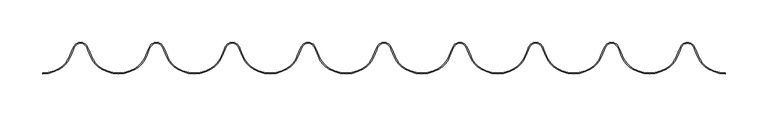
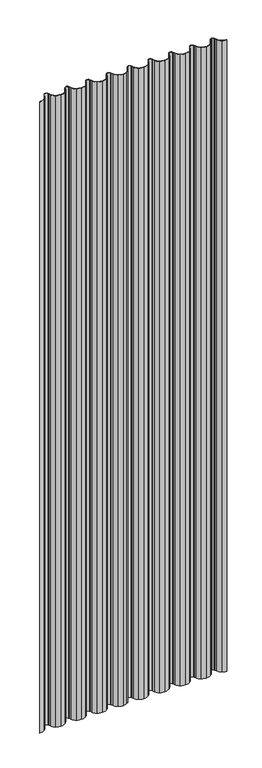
"""IFC4 building model written with IfcOpenShell, lengths in millimetres: plate geometry, Regolare Vertical 801 : Regolare Vertical 801."""

from ifc_helpers import new_model, si_unit, point, frame_2d, origin, origin_with_axes, place, context, project, spatial, polyline, circle_curve, trimmed, segment, composite_curve, outline, extrude, source, transform, mapped, element, save


def plate_73b56dba(model_context):
    return source(origin(), model_context, "Body", "SweptSolid", [
        extrude(outline(composite_curve([segment(trimmed(circle_curve(frame_2d((400.7317009, 38.4503244)), 37.4503244), [point((381.1909507, 6.5021495))], [point((400.7317009, 1.0))], True, "CARTESIAN"), True, "CONTINUOUS"), segment(polyline([(400.7317009, 1.0), (400.7317009, 0.0)]), True, "CONTINUOUS"), segment(trimmed(circle_curve(frame_2d((400.7317009, 38.4503244)), 38.4503244), [point((400.7317009, 0.0))], [point((380.6691729, 5.6490681))], False, "CARTESIAN"), True, "CONTINUOUS"), segment(trimmed(circle_curve(frame_2d((397.1660556, 32.6206681)), 31.6166783), [point((380.6691729, 5.6490681))], [point((367.8105714, 20.878867))], False, "CARTESIAN"), True, "CONTINUOUS"), segment(polyline([(367.8105714, 20.878867), (364.9413497, 28.0423924), (363.294996, 31.4771017)]), True, "CONTINUOUS"), segment(trimmed(circle_curve(frame_2d((356.2059563, 28.0791236)), 7.8613445), [point((363.294996, 31.4771017))], [point((356.2059563, 35.9404682))], True, "CARTESIAN"), True, "CONTINUOUS"), segment(trimmed(circle_curve(frame_2d((356.2059563, 28.0791236)), 7.8613445), [point((356.2059563, 35.9404682))], [point((349.1169167, 31.4771017))], True, "CARTESIAN"), True, "CONTINUOUS"), segment(polyline([(349.1169167, 31.4771017), (347.470563, 28.0423924), (344.6013413, 20.8788671)]), True, "CONTINUOUS"), segment(trimmed(circle_curve(frame_2d((315.245857, 32.6206681)), 31.6166783), [point((344.6013413, 20.8788671))], [point((331.7427398, 5.6490681))], False, "CARTESIAN"), True, "CONTINUOUS"), segment(trimmed(circle_curve(frame_2d((311.6802118, 38.4503244)), 38.4503244), [point((331.7427398, 5.6490681))], [point((311.6802118, 0.0))], False, "CARTESIAN"), True, "CONTINUOUS"), segment(trimmed(circle_curve(frame_2d((311.6802118, 38.4503244)), 38.4503244), [point((311.6802118, 0.0))], [point((291.6176838, 5.6490681))], False, "CARTESIAN"), True, "CONTINUOUS"), segment(trimmed(circle_curve(frame_2d((308.1145665, 32.6206681)), 31.6166783), [point((291.6176838, 5.6490681))], [point((278.7590823, 20.8788669))], False, "CARTESIAN"), True, "CONTINUOUS"), segment(polyline([(278.7590823, 20.8788669), (275.8898606, 28.0423924), (274.2435069, 31.4771017)]), True, "CONTINUOUS"), segment(trimmed(circle_curve(frame_2d((267.1544672, 28.0791236)), 7.8613445), [point((274.2435069, 31.4771017))], [point((260.0654276, 31.4771017))], True, "CARTESIAN"), True, "CONTINUOUS"), segment(polyline([(260.0654276, 31.4771017), (258.4190739, 28.0423924), (255.5498522, 20.878867)]), True, "CONTINUOUS"), segment(trimmed(circle_curve(frame_2d((226.1943679, 32.6206681)), 31.6166783), [point((255.5498522, 20.878867))], [point((242.6912507, 5.6490681))], False, "CARTESIAN"), True, "CONTINUOUS"), segment(trimmed(circle_curve(frame_2d((222.6287227, 38.4503244)), 38.4503244), [point((242.6912507, 5.6490681))], [point((222.6287227, 0.0))], False, "CARTESIAN"), True, "CONTINUOUS"), segment(trimmed(circle_curve(frame_2d((222.6287227, 38.4503244)), 38.4503244), [point((222.6287227, 0.0))], [point((202.5661947, 5.6490681))], False, "CARTESIAN"), True, "CONTINUOUS"), segment(trimmed(circle_curve(frame_2d((219.0630775, 32.6206681)), 31.6166783), [point((202.5661947, 5.6490681))], [point((189.7075932, 20.878867))], False, "CARTESIAN"), True, "CONTINUOUS"), segment(polyline([(189.7075932, 20.878867), (186.8383715, 28.0423924), (185.1920178, 31.4771017)]), True, "CONTINUOUS"), segment(trimmed(circle_curve(frame_2d((178.1029782, 28.0791236)), 7.8613445), [point((185.1920178, 31.4771017))], [point((171.0139385, 31.4771017))], True, "CARTESIAN"), True, "CONTINUOUS"), segment(polyline([(171.0139385, 31.4771017), (169.3675848, 28.0423924), (166.4983631, 20.8788669)]), True, "CONTINUOUS"), segment(trimmed(circle_curve(frame_2d((137.1428789, 32.6206681)), 31.6166783), [point((166.4983631, 20.8788669))], [point((153.6397616, 5.6490681))], False, "CARTESIAN"), True, "CONTINUOUS"), segment(trimmed(circle_curve(frame_2d((133.5772336, 38.4503244)), 38.4503244), [point((153.6397616, 5.6490681))], [point((133.5772336, 0.0))], False, "CARTESIAN"), True, "CONTINUOUS"), segment(trimmed(circle_curve(frame_2d((133.5772336, 38.4503244)), 38.4503244), [point((133.5772336, 0.0))], [point((113.5147056, 5.6490681))], False, "CARTESIAN"), True, "CONTINUOUS"), segment(trimmed(circle_curve(frame_2d((130.0115884, 32.6206681)), 31.6166783), [point((113.5147056, 5.6490681))], [point((100.6561042, 20.8788669))], False, "CARTESIAN"), True, "CONTINUOUS"), segment(polyline([(100.6561042, 20.8788669), (97.7868824, 28.0423924), (96.1405287, 31.4771017)]), True, "CONTINUOUS"), segment(trimmed(circle_curve(frame_2d((89.0514891, 28.0791236)), 7.8613445), [point((96.1405287, 31.4771017))], [point((81.9624494, 31.4771017))], True, "CARTESIAN"), True, "CONTINUOUS"), segment(polyline([(81.9624494, 31.4771017), (80.3160957, 28.0423924), (77.4468741, 20.8788673)]), True, "CONTINUOUS"), segment(trimmed(circle_curve(frame_2d((48.0913898, 32.6206681)), 31.6166783), [point((77.4468741, 20.8788673))], [point((64.5882725, 5.6490681))], False, "CARTESIAN"), True, "CONTINUOUS"), segment(trimmed(circle_curve(frame_2d((44.5257445, 38.4503244)), 38.4503244), [point((64.5882725, 5.6490681))], [point((44.5257445, 0.0))], False, "CARTESIAN"), True, "CONTINUOUS"), segment(trimmed(circle_curve(frame_2d((44.5257445, 38.4503244)), 38.4503244), [point((44.5257445, 0.0))], [point((24.4632165, 5.6490681))], False, "CARTESIAN"), True, "CONTINUOUS"), segment(trimmed(circle_curve(frame_2d((40.9600993, 32.6206681)), 31.6166783), [point((24.4632165, 5.6490681))], [point((11.6046151, 20.878867))], False, "CARTESIAN"), True, "CONTINUOUS"), segment(polyline([(11.6046151, 20.878867), (8.7353934, 28.0423924), (7.0890396, 31.4771017)]), True, "CONTINUOUS"), segment(trimmed(circle_curve(frame_2d((0.0, 28.0791236)), 7.8613445), [point((7.0890396, 31.4771017))], [point((-7.0890396, 31.4771017))], True, "CARTESIAN"), True, "CONTINUOUS"), segment(polyline([(-7.0890396, 31.4771017), (-8.7353934, 28.0423924), (-11.6046151, 20.878867)]), True, "CONTINUOUS"), segment(trimmed(circle_curve(frame_2d((-40.9600993, 32.6206681)), 31.6166783), [point((-11.6046151, 20.878867))], [point((-24.4632165, 5.6490681))], False, "CARTESIAN"), True, "CONTINUOUS"), segment(trimmed(circle_curve(frame_2d((-44.5257445, 38.4503244)), 38.4503244), [point((-24.4632165, 5.6490681))], [point((-44.5257445, 0.0))], False, "CARTESIAN"), True, "CONTINUOUS"), segment(trimmed(circle_curve(frame_2d((-44.5257445, 38.4503244)), 38.4503244), [point((-44.5257445, 0.0))], [point((-64.5882725, 5.6490681))], False, "CARTESIAN"), True, "CONTINUOUS"), segment(trimmed(circle_curve(frame_2d((-48.0913898, 32.6206681)), 31.6166783), [point((-64.5882725, 5.6490681))], [point((-77.4468741, 20.8788671))], False, "CARTESIAN"), True, "CONTINUOUS"), segment(polyline([(-77.4468741, 20.8788671), (-80.3160957, 28.0423924), (-81.9624494, 31.4771017)]), True, "CONTINUOUS"), segment(trimmed(circle_curve(frame_2d((-89.0514891, 28.0791236)), 7.8613445), [point((-81.9624494, 31.4771017))], [point((-96.1405287, 31.4771017))], True, "CARTESIAN"), True, "CONTINUOUS"), segment(polyline([(-96.1405287, 31.4771017), (-97.7868824, 28.0423924), (-100.6561041, 20.878867)]), True, "CONTINUOUS"), segment(trimmed(circle_curve(frame_2d((-130.0115884, 32.6206681)), 31.6166783), [point((-100.6561041, 20.878867))], [point((-113.5147056, 5.6490681))], False, "CARTESIAN"), True, "CONTINUOUS"), segment(trimmed(circle_curve(frame_2d((-133.5772336, 38.4503244)), 38.4503244), [point((-113.5147056, 5.6490681))], [point((-133.5772336, 0.0))], False, "CARTESIAN"), True, "CONTINUOUS"), segment(trimmed(circle_curve(frame_2d((-133.5772336, 38.4503244)), 38.4503244), [point((-133.5772336, 0.0))], [point((-153.6397616, 5.6490681))], False, "CARTESIAN"), True, "CONTINUOUS"), segment(trimmed(circle_curve(frame_2d((-137.1428789, 32.6206681)), 31.6166783), [point((-153.6397616, 5.6490681))], [point((-166.4983631, 20.878867))], False, "CARTESIAN"), True, "CONTINUOUS"), segment(polyline([(-166.4983631, 20.878867), (-169.3675848, 28.0423924), (-171.0139385, 31.4771017)]), True, "CONTINUOUS"), segment(trimmed(circle_curve(frame_2d((-178.1029782, 28.0791236)), 7.8613445), [point((-171.0139385, 31.4771017))], [point((-185.1920178, 31.4771017))], True, "CARTESIAN"), True, "CONTINUOUS"), segment(polyline([(-185.1920178, 31.4771017), (-186.8383715, 28.0423924), (-189.7075932, 20.878867)]), True, "CONTINUOUS"), segment(trimmed(circle_curve(frame_2d((-219.0630775, 32.6206681)), 31.6166783), [point((-189.7075932, 20.878867))], [point((-202.5661947, 5.6490681))], False, "CARTESIAN"), True, "CONTINUOUS"), segment(trimmed(circle_curve(frame_2d((-222.6287227, 38.4503244)), 38.4503244), [point((-202.5661947, 5.6490681))], [point((-222.6287227, 0.0))], False, "CARTESIAN"), True, "CONTINUOUS"), segment(trimmed(circle_curve(frame_2d((-222.6287227, 38.4503244)), 38.4503244), [point((-222.6287227, 0.0))], [point((-242.6912507, 5.6490681))], False, "CARTESIAN"), True, "CONTINUOUS"), segment(trimmed(circle_curve(frame_2d((-226.1943679, 32.6206681)), 31.6166783), [point((-242.6912507, 5.6490681))], [point((-255.5498521, 20.8788668))], False, "CARTESIAN"), True, "CONTINUOUS"), segment(polyline([(-255.5498521, 20.8788668), (-258.4190739, 28.0423924), (-260.0654276, 31.4771017)]), True, "CONTINUOUS"), segment(trimmed(circle_curve(frame_2d((-267.1544672, 28.0791236)), 7.8613445), [point((-260.0654276, 31.4771017))], [point((-274.2435069, 31.4771017))], True, "CARTESIAN"), True, "CONTINUOUS"), segment(polyline([(-274.2435069, 31.4771017), (-275.8898606, 28.0423924), (-278.7590823, 20.878867)]), True, "CONTINUOUS"), segment(trimmed(circle_curve(frame_2d((-308.1145665, 32.6206681)), 31.6166783), [point((-278.7590823, 20.878867))], [point((-291.6176838, 5.6490681))], False, "CARTESIAN"), True, "CONTINUOUS"), segment(trimmed(circle_curve(frame_2d((-311.6802118, 38.4503244)), 38.4503244), [point((-291.6176838, 5.6490681))], [point((-311.6802118, 0.0))], False, "CARTESIAN"), True, "CONTINUOUS"), segment(trimmed(circle_curve(frame_2d((-311.6802118, 38.4503244)), 38.4503244), [point((-311.6802118, 0.0))], [point((-331.7427398, 5.6490681))], False, "CARTESIAN"), True, "CONTINUOUS"), segment(trimmed(circle_curve(frame_2d((-315.245857, 32.6206681)), 31.6166783), [point((-331.7427398, 5.6490681))], [point((-344.6013413, 20.878867))], False, "CARTESIAN"), True, "CONTINUOUS"), segment(polyline([(-344.6013413, 20.878867), (-347.470563, 28.0423924), (-349.1169167, 31.4771017)]), True, "CONTINUOUS"), segment(trimmed(circle_curve(frame_2d((-356.2059563, 28.0791236)), 7.8613445), [point((-349.1169167, 31.4771017))], [point((-363.294996, 31.4771017))], True, "CARTESIAN"), True, "CONTINUOUS"), segment(polyline([(-363.294996, 31.4771017), (-364.9413497, 28.0423924), (-367.8105713, 20.8788671)]), True, "CONTINUOUS"), segment(trimmed(circle_curve(frame_2d((-397.1660556, 32.6206681)), 31.6166783), [point((-367.8105713, 20.8788671))], [point((-380.6691729, 5.6490681))], False, "CARTESIAN"), True, "CONTINUOUS"), segment(trimmed(circle_curve(frame_2d((-400.7317009, 38.4503244)), 38.4503244), [point((-380.6691729, 5.6490681))], [point((-400.7317009, 0.0))], False, "CARTESIAN"), True, "CONTINUOUS"), segment(polyline([(-400.7317009, 0.0), (-400.7317009, 1.0)]), True, "CONTINUOUS"), segment(trimmed(circle_curve(frame_2d((-400.7317009, 38.4503244)), 37.4503244), [point((-400.7317009, 1.0))], [point((-381.1909507, 6.5021495))], True, "CARTESIAN"), True, "CONTINUOUS"), segment(trimmed(circle_curve(frame_2d((-397.1660556, 32.6206681)), 30.6166783), [point((-381.1909507, 6.5021495))], [point((-368.7389658, 21.2504634))], True, "CARTESIAN"), True, "CONTINUOUS"), segment(polyline([(-368.7389658, 21.2504634), (-365.8573799, 28.4448583), (-364.1967551, 31.9093405)]), True, "CONTINUOUS"), segment(trimmed(circle_curve(frame_2d((-356.2059563, 28.0791236)), 8.8613445), [point((-364.1967551, 31.9093405))], [point((-348.2151575, 31.9093405))], False, "CARTESIAN"), True, "CONTINUOUS"), segment(polyline([(-348.2151575, 31.9093405), (-346.5545328, 28.4448583), (-343.6729469, 21.2504635)]), True, "CONTINUOUS"), segment(trimmed(circle_curve(frame_2d((-315.245857, 32.6206681)), 30.6166783), [point((-343.6729469, 21.2504635))], [point((-331.2209619, 6.5021495))], True, "CARTESIAN"), True, "CONTINUOUS"), segment(trimmed(circle_curve(frame_2d((-311.6802118, 38.4503244)), 37.4503244), [point((-331.2209619, 6.5021495))], [point((-311.6802118, 1.0))], True, "CARTESIAN"), True, "CONTINUOUS"), segment(trimmed(circle_curve(frame_2d((-311.6802118, 38.4503244)), 37.4503244), [point((-311.6802118, 1.0))], [point((-292.1394616, 6.5021495))], True, "CARTESIAN"), True, "CONTINUOUS"), segment(trimmed(circle_curve(frame_2d((-308.1145665, 32.6206681)), 30.6166783), [point((-292.1394616, 6.5021495))], [point((-279.6874767, 21.2504635))], True, "CARTESIAN"), True, "CONTINUOUS"), segment(polyline([(-279.6874767, 21.2504635), (-276.8058908, 28.4448583), (-275.1452661, 31.9093405)]), True, "CONTINUOUS"), segment(trimmed(circle_curve(frame_2d((-267.1544672, 28.0791236)), 8.8613445), [point((-275.1452661, 31.9093405))], [point((-259.1636684, 31.9093405))], False, "CARTESIAN"), True, "CONTINUOUS"), segment(polyline([(-259.1636684, 31.9093405), (-257.5030437, 28.4448583), (-254.6214578, 21.2504635)]), True, "CONTINUOUS"), segment(trimmed(circle_curve(frame_2d((-226.1943679, 32.6206681)), 30.6166783), [point((-254.6214578, 21.2504635))], [point((-242.1694728, 6.5021495))], True, "CARTESIAN"), True, "CONTINUOUS"), segment(trimmed(circle_curve(frame_2d((-222.6287227, 38.4503244)), 37.4503244), [point((-242.1694728, 6.5021495))], [point((-222.6287227, 1.0))], True, "CARTESIAN"), True, "CONTINUOUS"), segment(trimmed(circle_curve(frame_2d((-222.6287227, 38.4503244)), 37.4503244), [point((-222.6287227, 1.0))], [point((-203.0879726, 6.5021495))], True, "CARTESIAN"), True, "CONTINUOUS"), segment(trimmed(circle_curve(frame_2d((-219.0630775, 32.6206681)), 30.6166783), [point((-203.0879726, 6.5021495))], [point((-190.6359876, 21.2504635))], True, "CARTESIAN"), True, "CONTINUOUS"), segment(polyline([(-190.6359876, 21.2504635), (-187.7544017, 28.4448583), (-186.093777, 31.9093405)]), True, "CONTINUOUS"), segment(trimmed(circle_curve(frame_2d((-178.1029782, 28.0791236)), 8.8613445), [point((-186.093777, 31.9093405))], [point((-170.1121793, 31.9093405))], False, "CARTESIAN"), True, "CONTINUOUS"), segment(polyline([(-170.1121793, 31.9093405), (-168.4515546, 28.4448583), (-165.5699687, 21.2504634)]), True, "CONTINUOUS"), segment(trimmed(circle_curve(frame_2d((-137.1428789, 32.6206681)), 30.6166783), [point((-165.5699687, 21.2504634))], [point((-153.1179838, 6.5021495))], True, "CARTESIAN"), True, "CONTINUOUS"), segment(trimmed(circle_curve(frame_2d((-133.5772336, 38.4503244)), 37.4503244), [point((-153.1179838, 6.5021495))], [point((-133.5772336, 1.0))], True, "CARTESIAN"), True, "CONTINUOUS"), segment(trimmed(circle_curve(frame_2d((-133.5772336, 38.4503244)), 37.4503244), [point((-133.5772336, 1.0))], [point((-114.0364835, 6.5021495))], True, "CARTESIAN"), True, "CONTINUOUS"), segment(trimmed(circle_curve(frame_2d((-130.0115884, 32.6206681)), 30.6166783), [point((-114.0364835, 6.5021495))], [point((-101.5844985, 21.2504634))], True, "CARTESIAN"), True, "CONTINUOUS"), segment(polyline([(-101.5844985, 21.2504634), (-98.7029126, 28.4448583), (-97.0422879, 31.9093405)]), True, "CONTINUOUS"), segment(trimmed(circle_curve(frame_2d((-89.0514891, 28.0791236)), 8.8613445), [point((-97.0422879, 31.9093405))], [point((-81.0606903, 31.9093405))], False, "CARTESIAN"), True, "CONTINUOUS"), segment(polyline([(-81.0606903, 31.9093405), (-79.4000655, 28.4448583), (-76.5184796, 21.2504634)]), True, "CONTINUOUS"), segment(trimmed(circle_curve(frame_2d((-48.0913898, 32.6206681)), 30.6166783), [point((-76.5184796, 21.2504634))], [point((-64.0664947, 6.5021495))], True, "CARTESIAN"), True, "CONTINUOUS"), segment(trimmed(circle_curve(frame_2d((-44.5257445, 38.4503244)), 37.4503244), [point((-64.0664947, 6.5021495))], [point((-44.5257445, 1.0))], True, "CARTESIAN"), True, "CONTINUOUS"), segment(trimmed(circle_curve(frame_2d((-44.5257445, 38.4503244)), 37.4503244), [point((-44.5257445, 1.0))], [point((-24.9849944, 6.5021495))], True, "CARTESIAN"), True, "CONTINUOUS"), segment(trimmed(circle_curve(frame_2d((-40.9600993, 32.6206681)), 30.6166783), [point((-24.9849944, 6.5021495))], [point((-12.5330095, 21.2504633))], True, "CARTESIAN"), True, "CONTINUOUS"), segment(polyline([(-12.5330095, 21.2504633), (-9.6514235, 28.4448583), (-7.9907988, 31.9093405)]), True, "CONTINUOUS"), segment(trimmed(circle_curve(frame_2d((0.0, 28.0791236)), 8.8613445), [point((-7.9907988, 31.9093405))], [point((7.9907988, 31.9093405))], False, "CARTESIAN"), True, "CONTINUOUS"), segment(polyline([(7.9907988, 31.9093405), (9.6514235, 28.4448583), (12.5330095, 21.2504634)]), True, "CONTINUOUS"), segment(trimmed(circle_curve(frame_2d((40.9600993, 32.6206681)), 30.6166783), [point((12.5330095, 21.2504634))], [point((24.9849944, 6.5021495))], True, "CARTESIAN"), True, "CONTINUOUS"), segment(trimmed(circle_curve(frame_2d((44.5257445, 38.4503244)), 37.4503244), [point((24.9849944, 6.5021495))], [point((44.5257445, 1.0))], True, "CARTESIAN"), True, "CONTINUOUS"), segment(trimmed(circle_curve(frame_2d((44.5257445, 38.4503244)), 37.4503244), [point((44.5257445, 1.0))], [point((64.0664947, 6.5021495))], True, "CARTESIAN"), True, "CONTINUOUS"), segment(trimmed(circle_curve(frame_2d((48.0913898, 32.6206681)), 30.6166783), [point((64.0664947, 6.5021495))], [point((76.5184796, 21.2504634))], True, "CARTESIAN"), True, "CONTINUOUS"), segment(polyline([(76.5184796, 21.2504634), (79.4000655, 28.4448583), (81.0606903, 31.9093405)]), True, "CONTINUOUS"), segment(trimmed(circle_curve(frame_2d((89.0514891, 28.0791236)), 8.8613445), [point((81.0606903, 31.9093405))], [point((97.0422879, 31.9093405))], False, "CARTESIAN"), True, "CONTINUOUS"), segment(polyline([(97.0422879, 31.9093405), (98.7029126, 28.4448583), (101.5844985, 21.2504634)]), True, "CONTINUOUS"), segment(trimmed(circle_curve(frame_2d((130.0115884, 32.6206681)), 30.6166783), [point((101.5844985, 21.2504634))], [point((114.0364835, 6.5021495))], True, "CARTESIAN"), True, "CONTINUOUS"), segment(trimmed(circle_curve(frame_2d((133.5772336, 38.4503244)), 37.4503244), [point((114.0364835, 6.5021495))], [point((133.5772336, 1.0))], True, "CARTESIAN"), True, "CONTINUOUS"), segment(trimmed(circle_curve(frame_2d((133.5772336, 38.4503244)), 37.4503244), [point((133.5772336, 1.0))], [point((153.1179838, 6.5021495))], True, "CARTESIAN"), True, "CONTINUOUS"), segment(trimmed(circle_curve(frame_2d((137.1428789, 32.6206681)), 30.6166783), [point((153.1179838, 6.5021495))], [point((165.5699687, 21.2504634))], True, "CARTESIAN"), True, "CONTINUOUS"), segment(polyline([(165.5699687, 21.2504634), (168.4515546, 28.4448583), (170.1121793, 31.9093405)]), True, "CONTINUOUS"), segment(trimmed(circle_curve(frame_2d((178.1029782, 28.0791236)), 8.8613445), [point((170.1121793, 31.9093405))], [point((186.093777, 31.9093405))], False, "CARTESIAN"), True, "CONTINUOUS"), segment(polyline([(186.093777, 31.9093405), (187.7544017, 28.4448583), (190.6359876, 21.2504634)]), True, "CONTINUOUS"), segment(trimmed(circle_curve(frame_2d((219.0630775, 32.6206681)), 30.6166783), [point((190.6359876, 21.2504634))], [point((203.0879726, 6.5021495))], True, "CARTESIAN"), True, "CONTINUOUS"), segment(trimmed(circle_curve(frame_2d((222.6287227, 38.4503244)), 37.4503244), [point((203.0879726, 6.5021495))], [point((222.6287227, 1.0))], True, "CARTESIAN"), True, "CONTINUOUS"), segment(trimmed(circle_curve(frame_2d((222.6287227, 38.4503244)), 37.4503244), [point((222.6287227, 1.0))], [point((242.1694728, 6.5021495))], True, "CARTESIAN"), True, "CONTINUOUS"), segment(trimmed(circle_curve(frame_2d((226.1943679, 32.6206681)), 30.6166783), [point((242.1694728, 6.5021495))], [point((254.6214578, 21.2504634))], True, "CARTESIAN"), True, "CONTINUOUS"), segment(polyline([(254.6214578, 21.2504634), (257.5030437, 28.4448583), (259.1636684, 31.9093405)]), True, "CONTINUOUS"), segment(trimmed(circle_curve(frame_2d((267.1544672, 28.0791236)), 8.8613445), [point((259.1636684, 31.9093405))], [point((275.1452661, 31.9093405))], False, "CARTESIAN"), True, "CONTINUOUS"), segment(polyline([(275.1452661, 31.9093405), (276.8058908, 28.4448583), (279.6874767, 21.2504634)]), True, "CONTINUOUS"), segment(trimmed(circle_curve(frame_2d((308.1145665, 32.6206681)), 30.6166783), [point((279.6874767, 21.2504634))], [point((292.1394616, 6.5021495))], True, "CARTESIAN"), True, "CONTINUOUS"), segment(trimmed(circle_curve(frame_2d((311.6802118, 38.4503244)), 37.4503244), [point((292.1394616, 6.5021495))], [point((311.6802118, 1.0))], True, "CARTESIAN"), True, "CONTINUOUS"), segment(trimmed(circle_curve(frame_2d((311.6802118, 38.4503244)), 37.4503244), [point((311.6802118, 1.0))], [point((331.2209619, 6.5021495))], True, "CARTESIAN"), True, "CONTINUOUS"), segment(trimmed(circle_curve(frame_2d((315.245857, 32.6206681)), 30.6166783), [point((331.2209619, 6.5021495))], [point((343.6729469, 21.2504634))], True, "CARTESIAN"), True, "CONTINUOUS"), segment(polyline([(343.6729469, 21.2504634), (346.5545328, 28.4448583), (348.2151575, 31.9093405)]), True, "CONTINUOUS"), segment(trimmed(circle_curve(frame_2d((356.2059563, 28.0791236)), 8.8613445), [point((348.2151575, 31.9093405))], [point((356.2059563, 36.9404682))], False, "CARTESIAN"), True, "CONTINUOUS"), segment(trimmed(circle_curve(frame_2d((356.2059563, 28.0791236)), 8.8613445), [point((356.2059563, 36.9404682))], [point((364.1967551, 31.9093405))], False, "CARTESIAN"), True, "CONTINUOUS"), segment(polyline([(364.1967551, 31.9093405), (365.8573799, 28.4448583), (368.7389658, 21.2504634)]), True, "CONTINUOUS"), segment(trimmed(circle_curve(frame_2d((397.1660556, 32.6206681)), 30.6166783), [point((368.7389658, 21.2504634))], [point((381.1909507, 6.5021495))], True, "CARTESIAN"), True, "CONTINUOUS")], self_intersect=False)), origin_with_axes(), (0.0, 0.0, 1.0), 2859.2009216),
    ])


if __name__ == "__main__":
    model = new_model("IFC4")
    model_context = context("Model", 3, world=origin())
    ifc_project = project(units=[si_unit("LENGTHUNIT", "METRE", prefix="MILLI")], contexts=[model_context])
    site = spatial("IfcSite", under=ifc_project)
    building = spatial("IfcBuilding", under=site)
    placement = place(None, origin())
    plate_shape = plate_73b56dba(model_context)
    element("IfcPlate", 1, ObjectType="Regolare Vertical 801 : Regolare Vertical 801", at=placement, inside=building, context=model_context, shape_type="MappedRepresentation", body=[
        mapped(plate_shape, transform((0.0, 0.0, 0.0), x_axis=(1.0, 0.0, 0.0), y_axis=(0.0, 1.0, 0.0), z_axis=(0.0, 0.0, 1.0))),
    ])
    save(model, "model.ifc")
